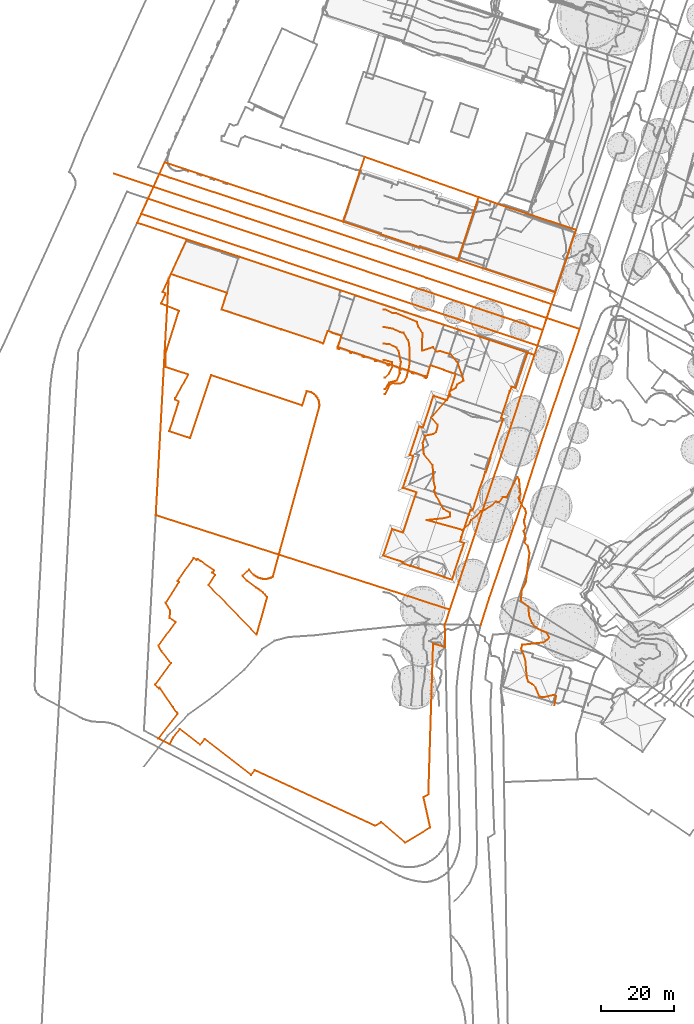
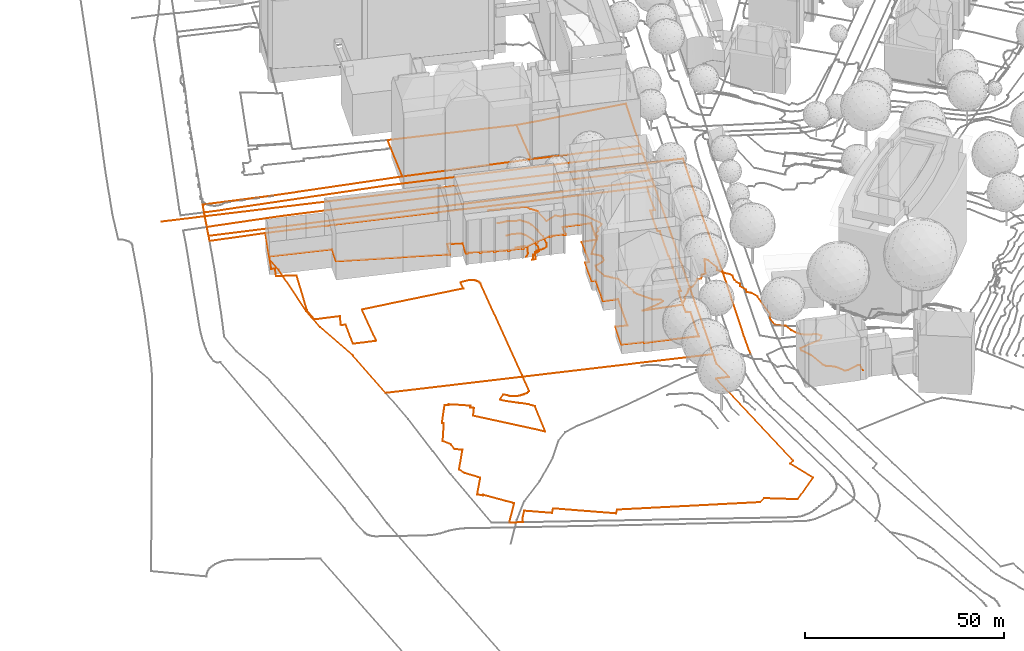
# Not in any storey, part 101 of 477: 8 geographic elements, 5 civil elements.
"""IFC4 model written with IfcOpenShell, lengths in metres."""

from ifc_helpers import new_model, entity, si_unit, frame, origin_with_axes, place, context, subcontext, project, spatial, element, save


model = new_model("IFC4")

# Units and contexts
model_context = context("Model", 3, precision=1e-05, world=origin_with_axes())
body_context = subcontext(model_context, "Body", "Model", "MODEL_VIEW")
ifc_project = project(units=[si_unit("AREAUNIT", "SQUARE_METRE"), si_unit("LENGTHUNIT", "METRE")], contexts=[model_context])

# Sites
site_1_placement = place(None, origin_with_axes())
site_1 = spatial("IfcSite", under=ifc_project, at=site_1_placement, Name="Topoexport Site")
site_2_placement = place(site_1_placement, origin_with_axes())
site_2 = spatial("IfcSite", under=site_1, at=site_2_placement, Name="TPX_ROADS")

# Civil elements
civil_element_1_placement = place(site_2_placement, frame((25.642732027, 20.4637425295, 527.881), z_axis=(0.0, 0.0, 1.0), x_axis=(1.0, 0.0, 0.0)))
element("IfcCivilElement", 1, at=civil_element_1_placement, inside=site_2, Name="Road 76", ObjectType="ROAD", context=body_context, shape_type="GeometricCurveSet", body=[
    entity("IfcGeometricCurveSet", [entity("IfcIndexedPolyCurve", entity("IfcCartesianPointList3D", [[0.0, 0.0, 0.0], [2.3489999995, 7.4879997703, 0.317], [11.4539999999, 33.9199989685, 0.851], [18.2089999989, 54.9179983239, 1.247], [27.0190000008, 80.7629975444, 1.587]]))]),
])
civil_element_2_placement = place(site_2_placement, frame((-74.5042679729, 143.6647387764, 528.908), z_axis=(0.0, 0.0, 1.0), x_axis=(1.0, 0.0, 0.0)))
element("IfcCivilElement", 2, at=civil_element_2_placement, inside=site_2, Name="Road 143", ObjectType="ROAD", context=body_context, shape_type="GeometricCurveSet", body=[
    entity("IfcGeometricCurveSet", [entity("IfcIndexedPolyCurve", entity("IfcCartesianPointList3D", [[0.0, 0.0, 0.0], [36.4310000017, -12.1439996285, 0.169], [85.506000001, -28.5029991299, 0.396], [127.1660000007, -42.4379987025, 0.56]]))]),
])

# Site
site_3_placement = place(site_1_placement, origin_with_axes())
site_3 = spatial("IfcSite", under=site_1, at=site_3_placement, Name="TPX_ROADS_OUTLINES")

# Civil elements
civil_element_3_placement = place(site_3_placement, frame((-66.9082679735, 132.6027160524, 528.6036984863), z_axis=(0.0, 0.0, 1.0), x_axis=(1.0, 0.0, 0.0)))
element("IfcCivilElement", 3, at=civil_element_3_placement, inside=site_3, Name="Roads Outline 3", ObjectType="ROAD", context=body_context, shape_type="GeometricCurveSet", body=[
    entity("IfcGeometricCurveSet", [entity("IfcIndexedPolyCurve", entity("IfcCartesianPointList3D", [[0.0, 0.0, 0.0], [1.8840000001, 4.1429999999, -0.4546460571], [20.327, -1.9890000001, 0.2302937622], [107.2760000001, -30.8959999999, 1.0697689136], [109.5020000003, -31.6359999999, 1.0313595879], [108.085, -35.899, 0.9999662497], [0.0, 0.0, 0.0]]))]),
])
civil_element_4_placement = place(site_3_placement, frame((-63.0402679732, 4.3537160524, 525.6837249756), z_axis=(0.0, 0.0, 1.0), x_axis=(1.0, 0.0, 0.0)))
element("IfcCivilElement", 4, at=civil_element_4_placement, inside=site_3, Name="Roads Outline 28", ObjectType="ROAD", context=body_context, shape_type="GeometricCurveSet", body=[
    entity("IfcGeometricCurveSet", [entity("IfcIndexedPolyCurve", entity("IfcCartesianPointList3D", [[0.0, 0.0, 0.0], [4.264, 5.791, 0.1184112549], [1.696, 9.1710000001, 0.4172806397], [0.8769999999, 10.611, 0.8488730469], [5.5499999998, 17.0220000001, 1.499630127], [3.9180000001, 18.1300000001, 1.5220515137], [4.102, 20.2070000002, 1.6666809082], [2.858, 22.2610000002, 1.8861427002], [6.4589999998, 27.9010000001, 2.6637408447], [6.057, 28.1780000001, 2.6776043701], [10.4649999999, 34.486, 2.8925315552], [11.273, 33.9070000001, 2.8793292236], [11.4899999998, 34.2170000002, 2.8852325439], [12.3319999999, 33.6670000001, 2.8747589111], [16.0269999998, 31.101, 2.764182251], [15.571, 30.442, 2.7493804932], [16.3429999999, 29.8900000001, 2.724289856], [14.5299999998, 27.1510000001, 2.6037419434], [27.645, 13.5900000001, 1.3920783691], [30.5099999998, 23.807, 1.9889050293], [29.9559999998, 24.4540000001, 2.0581810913], [29.3489999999, 25.05, 2.1817536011], [28.7519999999, 25.55, 2.2865168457], [28.1179999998, 26.003, 2.3825692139], [27.4499999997, 26.405, 2.4654605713], [24.9649999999, 28.3570000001, 2.6849542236], [23.7790000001, 29.71, 2.7148965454], [25.585, 31.29, 2.7684273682], [26.7719999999, 29.936, 2.7266903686], [27.159, 29.6459999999, 2.7115567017], [27.571, 29.3940000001, 2.6984060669], [28.0049999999, 29.1810000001, 2.6930513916], [28.4569999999, 29.01, 2.6913710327], [28.9070000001, 28.8700000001, 2.6899953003], [29.3700000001, 28.7820000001, 2.6891305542], [29.8399999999, 28.746, 2.6887767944], [30.3109999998, 28.763, 2.6889438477], [30.7620000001, 28.8290000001, 2.6895924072], [31.2029999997, 28.9450000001, 2.6907322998], [31.6289999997, 29.108, 2.6923340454], [32.034, 29.317, 2.6943878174], [33.8739999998, 36.051, 2.9267637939], [44.7399999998, 75.7890000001, 3.0942672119], [44.7539999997, 76.2480000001, 3.092642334], [44.7140000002, 76.7050000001, 3.0850093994], [44.6189999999, 77.1540000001, 3.0764591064], [44.4709999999, 77.5890000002, 3.0027486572], [44.273, 78.003, 2.8952814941], [44.0049999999, 78.419, 2.7870336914], [43.6859999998, 78.797, 2.6879425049], [43.321, 79.1310000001, 2.6003857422], [42.9169999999, 79.416, 2.4823435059], [42.4789999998, 79.6459999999, 2.3213828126], [41.327, 79.983, 2.0855404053], [40.0209999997, 76.064, 3.0932937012], [15.2409999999, 84.2950000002, 0.3151472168], [9.5180000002, 67.1510000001, 3.080034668], [3.818, 69.0150000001, 3.0681838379], [6.4109999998, 77.135, 3.0768209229], [5.4589999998, 77.635, 2.9908078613], [5.4839999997, 78.057, 2.8812640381], [9.0039999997, 84.5060000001, 0.311003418], [2.898, 86.5190000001, 0.2506137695], [2.875, 90.5360000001, 0.6634082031], [6.449, 101.851, 3.156569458], [1.5809999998, 103.791, 3.5085565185], [2.6459999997, 106.1170000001, 3.6748687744], [2.8589999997, 106.5830000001, 3.6426917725], [2.0249999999, 106.9650000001, 3.6142935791], [3.676, 110.577, 3.7259869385], [3.8859999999, 111.027, 3.7293377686], [4.2689999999, 111.8630000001, 3.6867414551], [19.5379999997, 106.7439999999, 3.6307229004], [18.0609999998, 102.2110000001, 3.2285518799], [34.3649999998, 96.7720000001, 2.0611691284], [34.378, 96.8220000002, 2.0720303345], [45.068, 93.2490000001, 1.2856575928], [45.051, 93.182, 1.2708255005], [45.8199999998, 92.9280000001, 1.2145963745], [46.969, 96.3770000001, 1.9753656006], [48.1430000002, 95.987, 1.8901043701], [48.1069999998, 95.8800000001, 1.8666850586], [50.7339999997, 95.0050000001, 1.6743912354], [49.713, 91.939, 0.9936497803], [49.824, 91.902, 0.9852624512], [49.7229999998, 91.5990000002, 0.9165770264], [50.1030000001, 91.4720000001, 0.8877880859], [50.2069999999, 91.7850000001, 0.9587403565], [53.1859999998, 90.794, 0.7259240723], [53.0819999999, 90.4810000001, 0.6500811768], [53.4619999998, 90.355, 0.6195501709], [53.5660000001, 90.6680000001, 0.6953930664], [56.602, 89.6570000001, 0.4510626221], [56.4980000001, 89.344, 0.3755253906], [56.8769999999, 89.2180000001, 0.3533472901], [56.9819999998, 89.53, 0.4204133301], [59.9909999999, 88.531, 0.2446617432], [59.8859999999, 88.2170000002, 0.2113922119], [60.2650000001, 88.091, 0.2121304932], [60.3700000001, 88.405, 0.2247281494], [63.3859999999, 87.399, 0.2578851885], [63.2820000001, 87.0860000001, 0.2570379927], [63.6519999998, 86.963, 0.2912049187], [63.7560000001, 87.2760000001, 0.2851047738], [66.7829999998, 86.2680000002, 1.6345501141], [66.679, 85.9550000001, 1.5774089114], [67.0579999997, 85.8290000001, 1.7542912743], [67.162, 86.142, 1.8074264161], [70.1889999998, 85.1340000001, 3.0522306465], [70.085, 84.821, 3.0170545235], [70.4550000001, 84.6980000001, 3.0848150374], [70.5589999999, 85.0110000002, 3.0877237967], [73.5869999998, 84.003, 3.0937452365], [73.483, 83.6900000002, 3.0991529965], [73.8619999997, 83.564, 3.088643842], [73.963, 83.868, 3.0755243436], [74.077, 83.8300000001, 3.0714270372], [75.0079999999, 87.0060000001, 3.0131993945], [78.7319999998, 85.767, 3.1050908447], [78.7069999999, 85.6640000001, 3.1015668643], [81.6329999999, 84.6910000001, 3.2339832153], [81.8989999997, 84.6030000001, 3.2461398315], [79.5249999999, 77.459, 3.3408582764], [75.824, 78.6880000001, 3.2370737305], [75.2080000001, 76.838, 3.2606502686], [75.2549999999, 76.8220000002, 3.2619755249], [73.2650000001, 70.8320000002, 3.2639450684], [73.2179999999, 70.848, 3.2631072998], [72.952, 70.0490000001, 3.2651387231], [71.9909999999, 70.368, 3.246715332], [69.3930000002, 62.557, 3.2155612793], [70.355, 62.2380000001, 3.2365511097], [70.0959999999, 61.459, 3.2249758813], [70.1439999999, 61.443, 3.2258059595], [68.1409999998, 55.416, 3.1797402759], [68.0929999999, 55.432, 3.1790493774], [67.486, 53.605, 3.1907124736], [71.1869999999, 52.375, 3.2233741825], [67.5279999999, 41.368, 3.1102470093], [64.5809999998, 42.348, 3.1686398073], [62.1770000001, 35.142, 2.9134719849], [67.568, 33.351, 2.8561185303], [67.4509999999, 33.0, 2.8432216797], [69.4440000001, 32.3370000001, 2.8527307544], [69.46, 32.3840000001, 2.8544819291], [78.9219999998, 29.24, 2.9057092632], [78.906, 29.193, 2.9048253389], [80.8789999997, 28.5380000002, 2.8714425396], [81.5419999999, 30.531, 2.9297599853], [81.4950000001, 30.547, 2.9304465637], [83.4950000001, 36.564, 3.0985984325], [83.5419999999, 36.548, 3.0947475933], [84.2089999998, 38.5520000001, 3.1293281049], [83.0589999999, 38.9340000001, 3.1891395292], [83.4899999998, 40.2250000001, 3.1802594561], [83.443, 40.2410000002, 3.1805015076], [85.446, 46.2580000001, 3.3652413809], [85.4929999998, 46.2420000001, 3.3628481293], [85.923, 47.5320000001, 3.414232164], [86.4920000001, 47.3420000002, 3.3829816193], [87.105, 49.1840000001, 3.4065753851], [87.0579999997, 49.2, 3.4109757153], [89.0619999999, 55.216, 3.4953983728], [89.1089999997, 55.2, 3.4923149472], [89.6680000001, 56.879, 3.531707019], [89.6209999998, 56.895, 3.5355511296], [89.9399999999, 57.8540000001, 3.5630180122], [90.1009999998, 57.8, 3.5457037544], [91.4539999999, 61.8640000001, 3.5692105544], [91.2909999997, 61.9180000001, 3.5771376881], [94.8360000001, 72.398, 3.7109557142], [94.267, 72.588, 3.7447742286], [94.8829999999, 74.4380000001, 3.8181295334], [94.8360000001, 74.4540000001, 3.8228062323], [96.6529999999, 79.9100000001, 3.8535547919], [96.6999999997, 79.8940000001, 3.8507631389], [97.128, 81.1780000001, 3.8687179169], [98.2560000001, 80.8030000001, 3.8167791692], [98.9249999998, 82.794, 3.8403510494], [98.878, 82.8100000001, 3.8439484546], [100.8969999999, 88.8200000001, 3.9248877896], [100.9440000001, 88.804, 3.9197014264], [101.4929999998, 90.4380000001, 3.9540633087], [103.3730000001, 89.8120000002, 3.8876880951], [80.298, 20.4070000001, 2.5428819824], [78.9279999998, 16.2760000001, 2.4160954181], [79.0729999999, 10.2080000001, 2.2072965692], [75.7429999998, 11.102, 2.3491719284], [74.4559999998, -29.939, 2.5237546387], [73.1349999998, -30.692, 2.4504216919], [74.9729999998, -38.963, 2.5195578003], [68.125, -43.122, 0.8424121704], [61.6359999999, -37.4949999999, 0.0167755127], [59.9399999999, -38.513, 0.0167755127], [27.1319999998, -23.352, 0.0167755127], [26.088, -24.659, 0.0167755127], [13.4580000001, -14.8569999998, 0.0167755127], [12.2199999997, -16.4379999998, 0.0167755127], [6.6869999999, -12.105, 0.0167755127], [4.8560000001, -14.51, 0.0167755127], [3.8629999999, -16.311, 0.0167755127], [0.841, -14.6909999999, 0.0167755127], [6.1319999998, -7.986, 0.0167755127], [5.9339999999, -7.699, 0.0167755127], [4.827, -6.1579999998, 0.0167755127], [1.2239999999, -0.899, 0.0017784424], [1.0430000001, -1.1509999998, 0.0062850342], [0.0, 0.0, 0.0]]))]),
])
civil_element_5_placement = place(site_3_placement, frame((-65.0242679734, 136.7457160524, 528.1490524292), z_axis=(0.0, 0.0, 1.0), x_axis=(1.0, 0.0, 0.0)))
element("IfcCivilElement", 5, at=civil_element_5_placement, inside=site_3, Name="Roads Outline 33", ObjectType="ROAD", context=body_context, shape_type="GeometricCurveSet", body=[
    entity("IfcGeometricCurveSet", [entity("IfcIndexedPolyCurve", entity("IfcCartesianPointList3D", [[0.0, 0.0, 0.0], [3.0550000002, 6.7170000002, -0.6811027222], [5.824, 5.8030000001, -0.6290595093], [47.5920000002, -7.983, 0.8992000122], [107.662, -27.9709999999, 1.4211484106], [109.9590000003, -28.7349999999, 1.4572135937], [107.6180000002, -35.7789999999, 1.486005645], [105.392, -35.0389999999, 1.5244149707], [18.443, -6.132, 0.6849398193], [0.0, 0.0, 0.0]]))]),
])

# Site
site_4_placement = place(site_1_placement, origin_with_axes())
site_4 = spatial("IfcSite", under=site_1, at=site_4_placement, Name="TPX_CADASTRES")

# Geographic elements
geographic_element_1_placement = place(site_4_placement, frame((-62.8782679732, 50.5037160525, 528.799663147), z_axis=(0.0, 0.0, 1.0), x_axis=(1.0, 0.0, 0.0)))
element("IfcGeographicElement", 6, at=geographic_element_1_placement, inside=site_4, Name="Cadastre 82", PredefinedType="NOTDEFINED", context=body_context, shape_type="GeometricCurveSet", body=[
    entity("IfcGeometricCurveSet", [entity("IfcIndexedPolyCurve", entity("IfcCartesianPointList3D", [[0.0, 0.0, 0.0], [0.9920000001, 18.2689999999, -0.0045663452], [1.9920000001, 36.5319999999, -2.6836051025], [2.4129999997, 44.1529999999, -2.5089744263], [3.2539999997, 59.6159999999, 0.5806967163], [3.514, 64.4269999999, 0.6100487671], [3.7239999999, 64.8769999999, 0.6133995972], [8.4449999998, 75.179, 0.5034064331], [103.2110000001, 43.662, 0.7717499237], [80.1359999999, -25.743, -0.573056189], [0.0, 0.0, 0.0]]))]),
])
geographic_element_2_placement = place(site_4_placement, frame((-68.0042679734, 130.1907160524, 528.88296875), z_axis=(0.0, 0.0, 1.0), x_axis=(1.0, 0.0, 0.0)))
element("IfcGeographicElement", 7, at=geographic_element_2_placement, inside=site_4, Name="Cadastre 83", PredefinedType="NOTDEFINED", context=body_context, shape_type="GeometricCurveSet", body=[
    entity("IfcGeometricCurveSet", [entity("IfcIndexedPolyCurve", entity("IfcCartesianPointList3D", [[0.0, 0.0, 0.0], [7.4909999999, 16.4739999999, -1.4595177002], [24.622, 10.7760000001, -1.2013676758], [35.253, 7.2379999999, -0.8039088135], [56.145, 0.291, -0.0336930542], [87.4569999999, -10.125, 0.6054903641], [114.0090000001, -18.9620000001, 0.7872893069], [108.3370000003, -36.0249999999, 0.6884443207], [13.571, -4.5079999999, 0.4201008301], [0.0, 0.0, 0.0]]))]),
])
geographic_element_3_placement = place(site_4_placement, frame((-11.8592679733, 130.4817160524, 528.8492756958), z_axis=(0.0, 0.0, 1.0), x_axis=(1.0, 0.0, 0.0)))
element("IfcGeographicElement", 8, at=geographic_element_3_placement, inside=site_4, Name="Cadastre 86", PredefinedType="NOTDEFINED", context=body_context, shape_type="GeometricCurveSet", body=[
    entity("IfcGeometricCurveSet", [entity("IfcIndexedPolyCurve", entity("IfcCartesianPointList3D", [[0.0, 0.0, 0.0], [4.6430000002, 13.898, -1.4252169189], [5.9010000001, 17.6629999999, -1.6247078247], [36.963, 6.6870000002, -1.223122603], [35.7390000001, 2.9839999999, -0.8274569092], [31.3119999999, -10.416, 0.6391834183], [0.0, 0.0, 0.0]]))]),
])
geographic_element_4_placement = place(site_4_placement, frame((19.4527320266, 120.0657160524, 529.4884591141), z_axis=(0.0, 0.0, 1.0), x_axis=(1.0, 0.0, 0.0)))
element("IfcGeographicElement", 9, at=geographic_element_4_placement, inside=site_4, Name="Cadastre 88", PredefinedType="NOTDEFINED", context=body_context, shape_type="GeometricCurveSet", body=[
    entity("IfcGeometricCurveSet", [entity("IfcIndexedPolyCurve", entity("IfcCartesianPointList3D", [[0.0, 0.0, 0.0], [4.4270000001, 13.3999999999, -1.4666403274], [5.6510000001, 17.1030000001, -1.8623060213], [10.9020000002, 15.2439999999, -1.3219887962], [32.2430000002, 8.2069999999, 0.7901763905], [26.5520000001, -8.8370000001, 0.1817989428], [0.0, 0.0, 0.0]]))]),
])

# Site
site_5_placement = place(site_1_placement, origin_with_axes())
site_5 = spatial("IfcSite", under=site_1, at=site_5_placement, Name="TPX_CONTOUR_LINES")

# Geographic elements
geographic_element_5_placement = place(site_5_placement, frame((-0.8222679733, 88.0750985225, 526.0), z_axis=(0.0, 0.0, 1.0), x_axis=(1.0, 0.0, 0.0)))
element("IfcGeographicElement", 10, at=geographic_element_5_placement, inside=site_5, Name="Contour Line 526.0 m", PredefinedType="NOTDEFINED", context=body_context, shape_type="GeometricCurveSet", body=[
    entity("IfcGeometricCurveSet", [entity("IfcIndexedPolyCurve", entity("IfcCartesianPointList3D", [[0.0, 0.0, 0.0], [0.5, 0.0, 0.0], [1.5, 1.0852548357, 0.0], [2.5031144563, 3.0956175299, 0.0], [2.3101694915, 4.0956175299, 0.0], [0.0, 4.7622841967, 0.0]]))]),
])
geographic_element_6_placement = place(site_5_placement, frame((-0.8222679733, 84.9189039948, 527.0), z_axis=(0.0, 0.0, 1.0), x_axis=(1.0, 0.0, 0.0)))
element("IfcGeographicElement", 11, at=geographic_element_6_placement, inside=site_5, Name="Contour Line 527.0 m", PredefinedType="NOTDEFINED", context=body_context, shape_type="GeometricCurveSet", body=[
    entity("IfcGeometricCurveSet", [entity("IfcIndexedPolyCurve", entity("IfcCartesianPointList3D", [[0.0, 0.0, 0.0], [0.5, 0.0, 0.0], [1.5, 1.7560593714, 0.0], [3.6307148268, 2.2518120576, 0.0], [4.4724129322, 4.2518120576, 0.0], [4.3928955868, 5.2518120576, 0.0], [4.7776724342, 7.2518120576, 0.0], [4.161431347, 10.2518120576, 0.0], [3.5601785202, 11.2518120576, 0.0], [1.5, 12.2413651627, 0.0], [0.0, 12.3221180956, 0.0]]))]),
])
geographic_element_7_placement = place(site_5_placement, frame((-0.8222679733, 83.5070146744, 528.0), z_axis=(0.0, 0.0, 1.0), x_axis=(1.0, 0.0, 0.0)))
element("IfcGeographicElement", 12, at=geographic_element_7_placement, inside=site_5, Name="Contour Line 528.0 m", PredefinedType="NOTDEFINED", context=body_context, shape_type="GeometricCurveSet", body=[
    entity("IfcGeometricCurveSet", [entity("IfcIndexedPolyCurve", entity("IfcCartesianPointList3D", [[0.0, 0.0, 0.0], [0.5, 0.0, 0.0], [1.7891566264, 2.663701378, 0.0], [2.5, 2.9526759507, 0.0], [4.5, 2.8550368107, 0.0], [5.5, 3.2095516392, 0.0], [6.3196060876, 4.663701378, 0.0], [7.0425257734, 7.663701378, 0.0], [7.1536831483, 10.663701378, 0.0], [7.0342199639, 13.663701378, 0.0], [6.739962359, 14.663701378, 0.0], [5.5, 16.7309648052, 0.0], [4.5, 16.8634232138, 0.0], [2.5, 17.8417278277, 0.0], [0.0, 18.2930916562, 0.0]]))]),
])
geographic_element_8_placement = place(site_5_placement, frame((-0.8222679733, 106.5861123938, 529.0), z_axis=(0.0, 0.0, 1.0), x_axis=(1.0, 0.0, 0.0)))
element("IfcGeographicElement", 13, at=geographic_element_8_placement, inside=site_5, Name="Contour Line 529.0 m", PredefinedType="NOTDEFINED", context=body_context, shape_type="GeometricCurveSet", body=[
    entity("IfcGeometricCurveSet", [entity("IfcIndexedPolyCurve", entity("IfcCartesianPointList3D", [[46.5698735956, -107.9153963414, 0.0], [47.0455882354, -105.4153963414, 0.0], [46.5, -105.066055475, 0.0], [43.5, -105.7167146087, 0.0], [42.5, -105.5186073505, 0.0], [41.5, -103.0559831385, 0.0], [40.5, -102.0856091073, 0.0], [39.5, -101.576686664, 0.0], [39.0976548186, -100.4153963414, 0.0], [38.661016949, -95.4153963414, 0.0], [37.5542892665, -92.4153963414, 0.0], [37.8526970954, -91.4153963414, 0.0], [43.5, -90.7710319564, 0.0], [44.5, -90.189022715, 0.0], [45.1591760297, -89.4153963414, 0.0], [44.5, -88.1324603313, 0.0], [42.5, -87.3254927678, 0.0], [41.2446252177, -86.4153963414, 0.0], [40.5, -85.4525864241, 0.0], [39.7236617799, -83.4153963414, 0.0], [39.5, -81.1181298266, 0.0], [37.4488128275, -79.4153963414, 0.0], [37.7410788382, -76.4153963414, 0.0], [38.8027234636, -74.4153963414, 0.0], [39.8161925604, -66.4153963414, 0.0], [39.3298507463, -64.4153963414, 0.0], [38.4470338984, -63.4153963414, 0.0], [38.8061728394, -62.4153963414, 0.0], [38.2623590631, -60.4153963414, 0.0], [38.8037974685, -59.4153963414, 0.0], [38.4050203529, -58.4153963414, 0.0], [38.3765690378, -57.4153963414, 0.0], [38.9104803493, -55.4153963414, 0.0], [38.6028225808, -54.4153963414, 0.0], [37.7876712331, -53.4153963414, 0.0], [36.842256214, -51.4153963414, 0.0], [37.3528481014, -50.4153963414, 0.0], [36.9727272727, -46.4153963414, 0.0], [36.5, -45.6381168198, 0.0], [33.5, -51.2207199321, 0.0], [32.5, -51.1726095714, 0.0], [31.5, -52.5573939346, 0.0], [30.5, -52.3365581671, 0.0], [29.4401993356, -53.4153963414, 0.0], [27.5, -54.706347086, 0.0], [26.5, -54.9473890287, 0.0], [25.5, -56.2038060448, 0.0], [23.8402889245, -57.4153963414, 0.0], [23.412914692, -58.4153963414, 0.0], [21.5, -60.1143314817, 0.0], [11.7516129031, -57.4153963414, 0.0], [16.5, -56.9011369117, 0.0], [18.2229551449, -56.4153963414, 0.0], [18.1314465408, -55.4153963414, 0.0], [16.3506666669, -54.4153963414, 0.0], [14.1744186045, -50.4153963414, 0.0], [13.8606060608, -49.4153963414, 0.0], [14.1085526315, -48.4153963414, 0.0], [13.7647058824, -47.4153963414, 0.0], [13.3950819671, -42.4153963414, 0.0], [11.0082742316, -39.4153963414, 0.0], [10.7141057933, -36.4153963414, 0.0], [11.3825136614, -34.4153963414, 0.0], [13.5, -33.972183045, 0.0], [14.2790697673, -33.4153963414, 0.0], [14.6666666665, -32.4153963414, 0.0], [14.730769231, -31.4153963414, 0.0], [13.0179372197, -29.4153963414, 0.0], [18.2698019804, -23.4153963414, 0.0], [17.9617691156, -22.4153963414, 0.0], [19.698561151, -21.4153963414, 0.0], [20.1332794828, -20.4153963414, 0.0], [21.7781250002, -19.4153963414, 0.0], [21.6351351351, -18.4153963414, 0.0], [20.1815511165, -14.4153963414, 0.0], [18.5, -12.3465626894, 0.0], [15.5, -11.3606459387, 0.0], [14.5, -11.4619716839, 0.0], [13.5, -10.279803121, 0.0], [10.5, -11.2644285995, 0.0], [10.6347818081, -6.4153963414, 0.0], [9.5, -4.6084518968, 0.0], [9.1436870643, -3.4153963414, 0.0], [3.5, -1.0315501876, 0.0], [2.5, -1.0003700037, 0.0], [0.5, 0.0, 0.0], [0.0, 0.0, 0.0]]))]),
])

save(model, "model.ifc")
